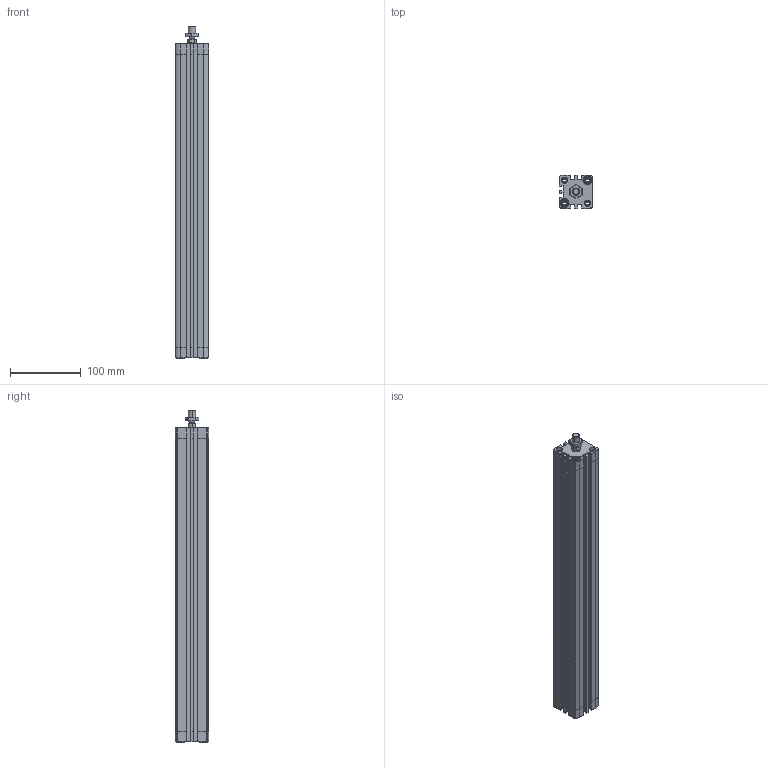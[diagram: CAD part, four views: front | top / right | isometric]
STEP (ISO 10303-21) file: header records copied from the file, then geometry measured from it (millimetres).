
FILE_DESCRIPTION (( 'STEP AP203' ), '1' );
FILE_NAME ('CCN32-400M.STEP', '2017-03-29T13:55:53', ( '' ), ( '' ), 'SwSTEP 2.0', 'SolidWorks 2016', '' );
FILE_SCHEMA (( 'CONFIG_CONTROL_DESIGN' ));
Length unit declared in the file: millimetre
Products named in the file (4): CCN-400_(KS); _DIN-439-B - M10x1.25(F); CCN32-400M; CCN-400---(Z)
Assembly tree (3 placements, depth 2):
  CCN32-400M
    CCN-400---(Z)
    CCN-400_(KS)
    _DIN-439-B - M10x1.25(F)
Bounding box: 47 x 47 x 469 mm (x, y, z)
Volume: 532504.6 mm3; surface area: 217390.5 mm2
Topology: 3 solids, 3 shells, 499 faces, 1336 edges, 874 vertices
Faces by surface type: plane 275, cylinder 172, cone 48, bspline 4
Entity records: 16266 total; most frequent: CARTESIAN_POINT 3123, DIRECTION 2724, ORIENTED_EDGE 2672, EDGE_CURVE 1336, AXIS2_PLACEMENT_3D 999, VERTEX_POINT 874, LINE 726, VECTOR 726
